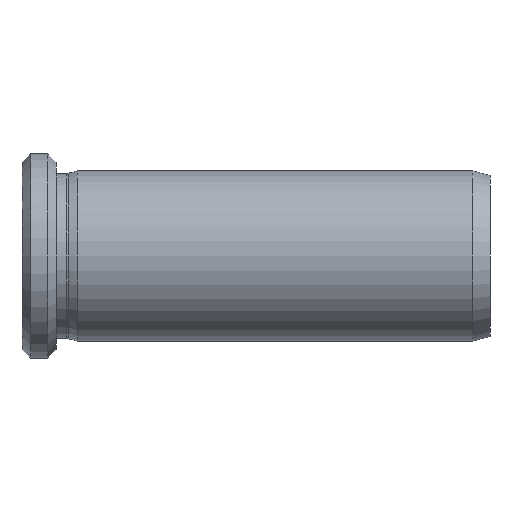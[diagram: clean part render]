
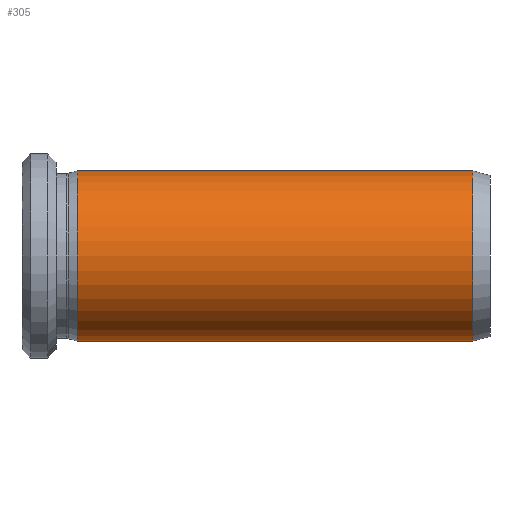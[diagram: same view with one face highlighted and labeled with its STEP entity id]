
A CAD part, front view. The second image highlights one B-rep face of the part: STEP entity #305.
In plain terms, the highlighted cylindrical face has radius 10 mm (diameter 20 mm), a partial arc.
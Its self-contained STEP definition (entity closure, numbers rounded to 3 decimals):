
#37 = EDGE_LOOP ( 'NONE', ( #392, #448, #506, #164 ) ) ;
#41 = VERTEX_POINT ( 'NONE', #255 ) ;
#67 = CARTESIAN_POINT ( 'NONE',  ( 63.8, 0., -10. ) ) ;
#82 = CARTESIAN_POINT ( 'NONE',  ( 63.8, 0., 10. ) ) ;
#89 = CYLINDRICAL_SURFACE ( 'NONE', #439, 10. ) ;
#125 = VERTEX_POINT ( 'NONE', #552 ) ;
#144 = AXIS2_PLACEMENT_3D ( 'NONE', #316, #355, #566 ) ;
#155 = EDGE_CURVE ( 'NONE', #125, #41, #502, .T. ) ;
#164 = ORIENTED_EDGE ( 'NONE', *, *, #155, .F. ) ;
#191 = EDGE_CURVE ( 'NONE', #347, #487, #597, .T. ) ;
#230 = DIRECTION ( 'NONE',  ( -1., 0., 0. ) ) ;
#255 = CARTESIAN_POINT ( 'NONE',  ( 17.3, 0., 10. ) ) ;
#305 = ADVANCED_FACE ( 'NONE', ( #634 ), #89, .T. ) ;
#316 = CARTESIAN_POINT ( 'NONE',  ( 17.3, 0., 0. ) ) ;
#347 = VERTEX_POINT ( 'NONE', #67 ) ;
#355 = DIRECTION ( 'NONE',  ( -1., 0., 0. ) ) ;
#356 = DIRECTION ( 'NONE',  ( 0., 0., 1. ) ) ;
#360 = DIRECTION ( 'NONE',  ( -1., 0., 0. ) ) ;
#364 = CARTESIAN_POINT ( 'NONE',  ( 63.8, 0., 0. ) ) ;
#383 = CARTESIAN_POINT ( 'NONE',  ( 0., 0., -10. ) ) ;
#392 = ORIENTED_EDGE ( 'NONE', *, *, #456, .F. ) ;
#400 = LINE ( 'NONE', #560, #520 ) ;
#405 = EDGE_CURVE ( 'NONE', #487, #41, #400, .T. ) ;
#423 = LINE ( 'NONE', #383, #540 ) ;
#439 = AXIS2_PLACEMENT_3D ( 'NONE', #525, #508, #529 ) ;
#448 = ORIENTED_EDGE ( 'NONE', *, *, #191, .T. ) ;
#456 = EDGE_CURVE ( 'NONE', #347, #125, #423, .T. ) ;
#487 = VERTEX_POINT ( 'NONE', #82 ) ;
#502 = CIRCLE ( 'NONE', #144, 10. ) ;
#506 = ORIENTED_EDGE ( 'NONE', *, *, #405, .T. ) ;
#508 = DIRECTION ( 'NONE',  ( -1., 0., 0. ) ) ;
#520 = VECTOR ( 'NONE', #530, 1000. ) ;
#525 = CARTESIAN_POINT ( 'NONE',  ( 0., 0., 0. ) ) ;
#529 = DIRECTION ( 'NONE',  ( 0., 0., 1. ) ) ;
#530 = DIRECTION ( 'NONE',  ( -1., 0., 0. ) ) ;
#540 = VECTOR ( 'NONE', #230, 1000. ) ;
#552 = CARTESIAN_POINT ( 'NONE',  ( 17.3, 0., -10. ) ) ;
#560 = CARTESIAN_POINT ( 'NONE',  ( 0., 0., 10. ) ) ;
#566 = DIRECTION ( 'NONE',  ( 0., 0., 1. ) ) ;
#597 = CIRCLE ( 'NONE', #637, 10. ) ;
#634 = FACE_OUTER_BOUND ( 'NONE', #37, .T. ) ;
#637 = AXIS2_PLACEMENT_3D ( 'NONE', #364, #360, #356 ) ;
